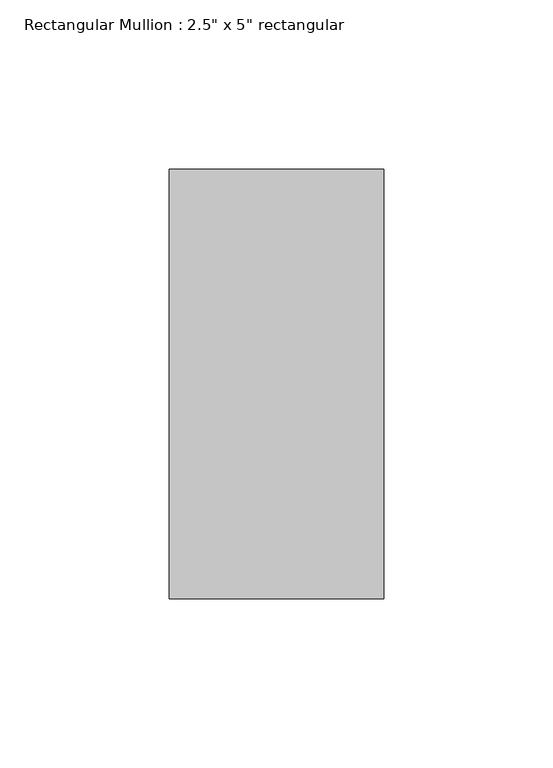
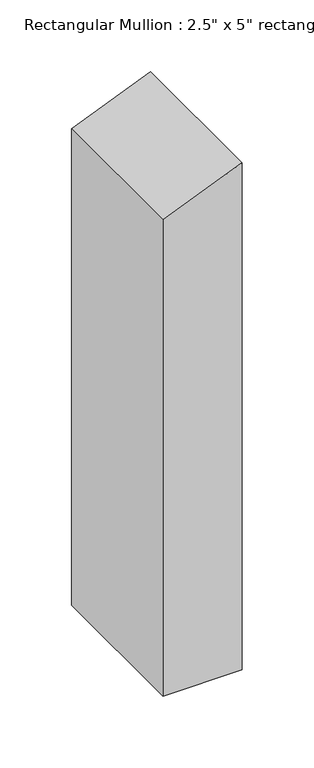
"""IFC4 building model written with IfcOpenShell, lengths in millimetres: member geometry."""

from ifc_helpers import new_model, si_unit, frame, origin, place, context, project, spatial, polyline, outline, extrude, source, transform, mapped, element, save


def member_b15b27bb(model_context):
    return source(origin(), model_context, "Body", "SweptSolid", [
        extrude(outline(polyline([(0.0, 0.0), (-26.3025612, -63.5), (-431.0522935, -63.5), (-431.0522935, 0.0), (0.0, 0.0)])), frame((0.0, -63.5, 0.0), z_axis=(0.0, 1.0, 0.0), x_axis=(0.0, 0.0, 1.0)), (0.0, 0.0, 1.0), 127.0),
    ])


if __name__ == "__main__":
    model = new_model("IFC4")
    model_context = context("Model", 3, world=origin())
    ifc_project = project(units=[si_unit("LENGTHUNIT", "METRE", prefix="MILLI")], contexts=[model_context])
    site = spatial("IfcSite", under=ifc_project)
    building = spatial("IfcBuilding", under=site)
    placement = place(None, origin())
    member_shape = member_b15b27bb(model_context)
    element("IfcMember", 1, ObjectType="Rectangular Mullion : 2.5\" x 5\" rectangular", at=placement, inside=building, context=model_context, shape_type="MappedRepresentation", body=[
        mapped(member_shape, transform((0.0, 0.0, 0.0), x_axis=(1.0, 0.0, 0.0), y_axis=(0.0, 1.0, 0.0), z_axis=(0.0, 0.0, 1.0))),
    ])
    save(model, "model.ifc")
